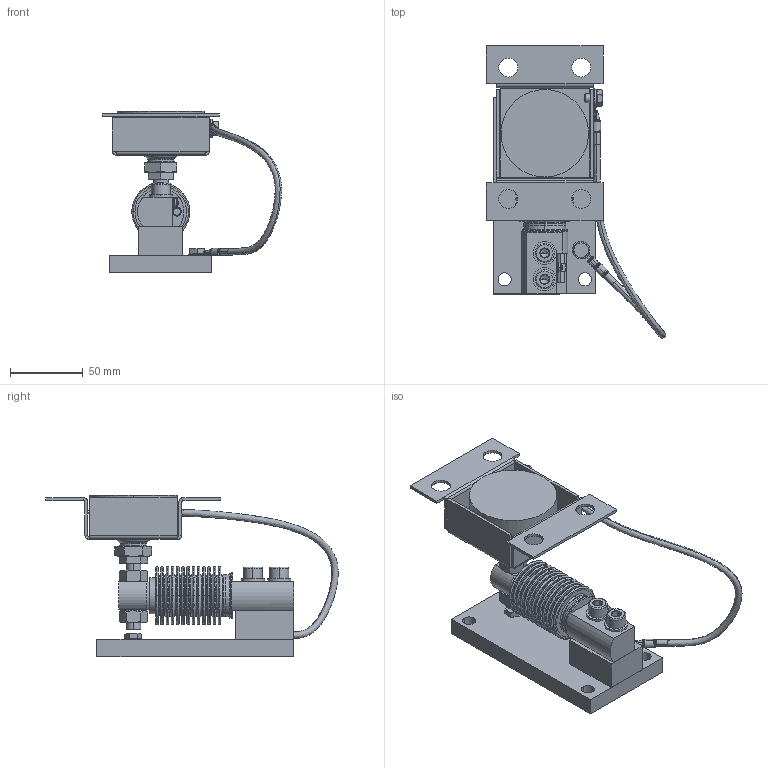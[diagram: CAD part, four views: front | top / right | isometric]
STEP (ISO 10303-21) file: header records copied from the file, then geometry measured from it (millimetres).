
FILE_DESCRIPTION((''),'1');
FILE_NAME('LMLAG_version-10.step','2020-06-29T10:11:52',(''),(''),'','','');
FILE_SCHEMA(('AUTOMOTIVE_DESIGN { 1 0 10303 214 1 1 1 1 }'));
Products named in the file (29): LMLAG version-10; LMLAG part 03; LMLAG part 04; LMLAG part 06; LMLAG cable 01; LMLAG part 07; LMLAG cable 02; LMLAG screw 01; LMLAG screw 02; LMLAG part 08; LMLAG nut 01; LMLAG part 09; LMLAG base 01; LMLAG part 10; LMLAG nut 03; LMLAG screw 03; LMLAG screw 04; LMLAG load cell 01; LMLAG body 01; LMLAG screw 05; LMLAG washer 01; LMLAG part 11; LMLAG cable 03; LMLAG part 12; LMLAG screw 06; LMLAG screw 07; LMLAG part 13
Assembly tree (35 placements, depth 4):
  LMLAG version-10
    LMLAG version-10
    LMLAG part 07
      LMLAG part 03
        LMLAG part 04
        LMLAG part 06
        LMLAG cable 01
      LMLAG part 03
        LMLAG part 04
        LMLAG part 06
        LMLAG cable 01
      LMLAG cable 02
    LMLAG screw 01  x2
    LMLAG screw 02
    LMLAG part 08
      LMLAG nut 01
      LMLAG part 09
      LMLAG base 01
    LMLAG part 10
    LMLAG nut 03  x2
    LMLAG screw 03  x2
    LMLAG screw 04  x2
    LMLAG load cell 01
      LMLAG body 01
      LMLAG screw 05
      LMLAG washer 01
      LMLAG part 11
      LMLAG cable 03
    LMLAG part 12
    LMLAG screw 06
    LMLAG screw 07
    LMLAG part 13
Bounding box: 122.79 x 200.43 x 111 mm (x, y, z)
Volume: 291073.2 mm3; surface area: 149448.3 mm2
Topology: 29 solids, 35 shells, 1166 faces, 2745 edges, 1697 vertices
Faces by surface type: plane 388, cylinder 288, torus 242, cone 164, bspline 78, extrusion 4, revolution 1, sphere 1
Entity records: 37014 total; most frequent: CARTESIAN_POINT 14365, DIRECTION 5016, ORIENTED_EDGE 4298, EDGE_CURVE 2161, AXIS2_PLACEMENT_3D 2134, VERTEX_POINT 1344, CIRCLE 1196, EDGE_LOOP 1067
